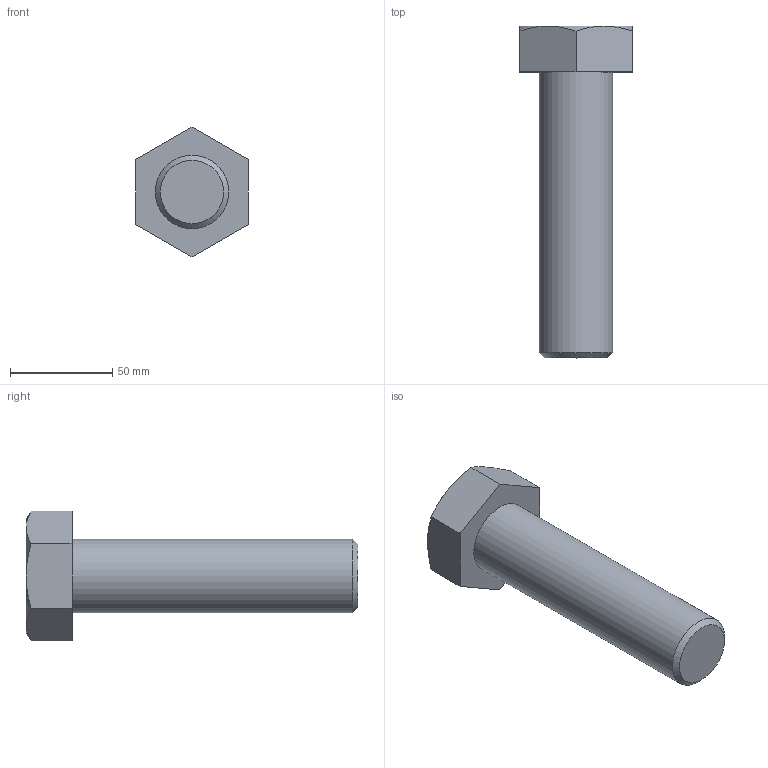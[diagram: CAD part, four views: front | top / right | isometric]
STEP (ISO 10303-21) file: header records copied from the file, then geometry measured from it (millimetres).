
FILE_DESCRIPTION(/* description */ (''),/* implementation_level */ '2;1');
FILE_NAME(/* name */ 'C:\Users\unitec\Documents\Inventor\各種小物\JIS\JIS B 1180 六角ボルト 等級C\hbc36\M36x140.stp',/* time_stamp */ '2015-02-13T14:56:43+09:00',/* author */ ('unitec'),/* organization */ (''),/* preprocessor_version */ 'ST-DEVELOPER v15.2',/* originating_system */ 'Autodesk Inventor 2014',/* authorisation */ '');
FILE_SCHEMA (('AUTOMOTIVE_DESIGN { 1 0 10303 214 3 1 1 }'));
Length unit declared in the file: millimetre
Products named in the file (1): M36x140
Bounding box: 55 x 162.5 x 63.51 mm (x, y, z)
Volume: 200941.9 mm3; surface area: 25067 mm2
Topology: 1 solids, 1 shells, 17 faces, 35 edges, 21 vertices
Faces by surface type: plane 9, cone 7, cylinder 1
Full cylindrical faces by diameter (mm): 36 x1
Entity records: 441 total; most frequent: CARTESIAN_POINT 96, ORIENTED_EDGE 66, DIRECTION 66, EDGE_CURVE 33, AXIS2_PLACEMENT_3D 27, VERTEX_POINT 21, EDGE_LOOP 20, ADVANCED_FACE 17
